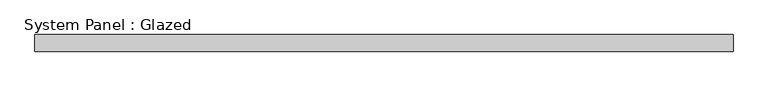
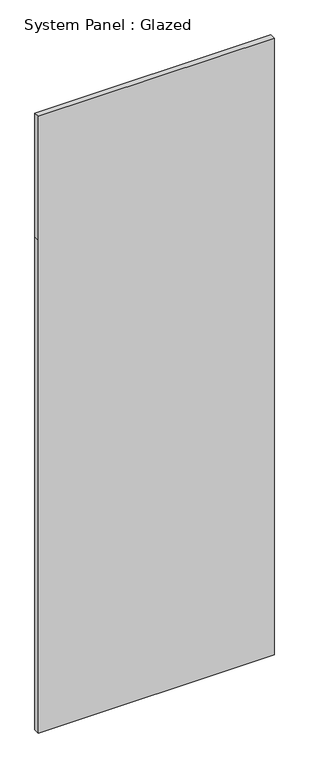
"""IFC4 building model written with IfcOpenShell, lengths in millimetres: plate geometry, System Panel : Glazed."""

from ifc_helpers import new_model, si_unit, frame, origin, place, context, project, spatial, polyline, outline, extrude, source, transform, mapped, element, save


def system_panel_glazed_f65177c8(model_context):
    return source(origin(), model_context, "Body", "SweptSolid", [
        extrude(outline(polyline([(0.0, -513.5714287), (0.0, 513.5714287), (2270.0, 513.5714287), (2840.0, 513.5714287), (2840.0, -513.5714287), (2270.0, -513.5714287), (0.0, -513.5714287)])), frame((0.0, 0.0, 0.0), z_axis=(0.0, 1.0, 0.0), x_axis=(0.0, 0.0, 1.0)), (0.0, 0.0, 1.0), 25.0),
    ])


if __name__ == "__main__":
    model = new_model("IFC4")
    model_context = context("Model", 3, world=origin())
    ifc_project = project(units=[si_unit("LENGTHUNIT", "METRE", prefix="MILLI")], contexts=[model_context])
    site = spatial("IfcSite", under=ifc_project)
    building = spatial("IfcBuilding", under=site)
    placement = place(None, origin())
    system_panel_glazed_shape = system_panel_glazed_f65177c8(model_context)
    element("IfcPlate", 1, ObjectType="System Panel : Glazed", at=placement, inside=building, context=model_context, shape_type="MappedRepresentation", body=[
        mapped(system_panel_glazed_shape, transform((0.0, 0.0, 0.0), x_axis=(1.0, 0.0, 0.0), y_axis=(0.0, 1.0, 0.0), z_axis=(0.0, 0.0, 1.0))),
    ])
    save(model, "model.ifc")
